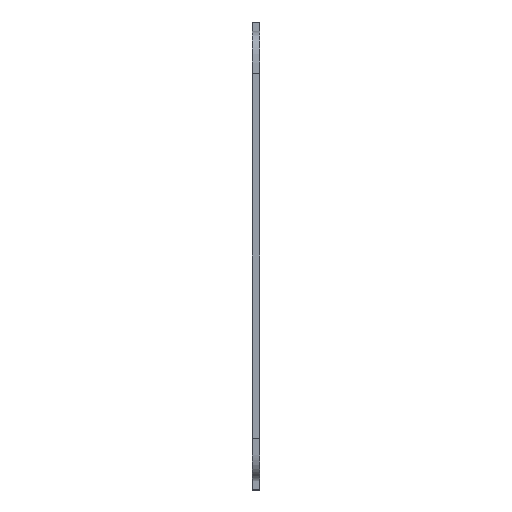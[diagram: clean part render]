
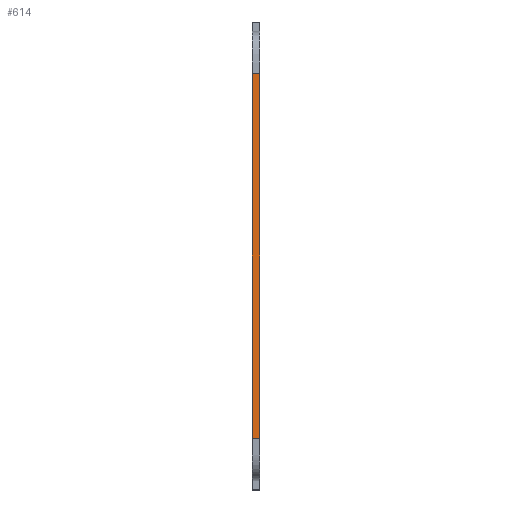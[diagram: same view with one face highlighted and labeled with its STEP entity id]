
A CAD part, front view. The second image highlights one B-rep face of the part: STEP entity #614.
In plain terms, the highlighted planar face has unit normal (0, -1, 0).
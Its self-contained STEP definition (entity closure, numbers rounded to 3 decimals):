
#69=PLANE('',#679);
#98=FACE_OUTER_BOUND('',#140,.T.);
#140=EDGE_LOOP('',(#533,#534,#535,#536));
#173=LINE('',#1021,#217);
#194=LINE('',#1361,#238);
#197=LINE('',#1368,#241);
#198=LINE('',#1369,#242);
#217=VECTOR('',#739,10.);
#238=VECTOR('',#812,10.);
#241=VECTOR('',#819,10.);
#242=VECTOR('',#820,10.);
#290=VERTEX_POINT('',#1010);
#292=VERTEX_POINT('',#1019);
#320=VERTEX_POINT('',#1359);
#322=VERTEX_POINT('',#1367);
#356=EDGE_CURVE('',#290,#292,#173,.F.);
#399=EDGE_CURVE('',#320,#292,#194,.F.);
#402=EDGE_CURVE('',#322,#290,#197,.F.);
#403=EDGE_CURVE('',#322,#320,#198,.F.);
#533=ORIENTED_EDGE('',*,*,#402,.T.);
#534=ORIENTED_EDGE('',*,*,#356,.T.);
#535=ORIENTED_EDGE('',*,*,#399,.F.);
#536=ORIENTED_EDGE('',*,*,#403,.F.);
#614=ADVANCED_FACE('',(#98),#69,.T.);
#679=AXIS2_PLACEMENT_3D('',#1366,#817,#818);
#739=DIRECTION('',(1.,0.,0.));
#812=DIRECTION('',(0.,0.,-1.));
#817=DIRECTION('center_axis',(0.,-1.,0.));
#818=DIRECTION('ref_axis',(0.,0.,1.));
#819=DIRECTION('',(0.,0.,-1.));
#820=DIRECTION('',(1.,0.,0.));
#1010=CARTESIAN_POINT('',(158.,-86.7,91.3));
#1019=CARTESIAN_POINT('',(155.,-86.7,91.3));
#1021=CARTESIAN_POINT('',(158.,-86.7,91.3));
#1359=CARTESIAN_POINT('',(155.,-86.7,-63.3));
#1361=CARTESIAN_POINT('',(155.,-86.7,-49.6));
#1366=CARTESIAN_POINT('Origin',(158.,-86.7,-63.5));
#1367=CARTESIAN_POINT('',(158.,-86.7,-63.3));
#1368=CARTESIAN_POINT('',(158.,-86.7,-49.6));
#1369=CARTESIAN_POINT('',(158.,-86.7,-63.3));
